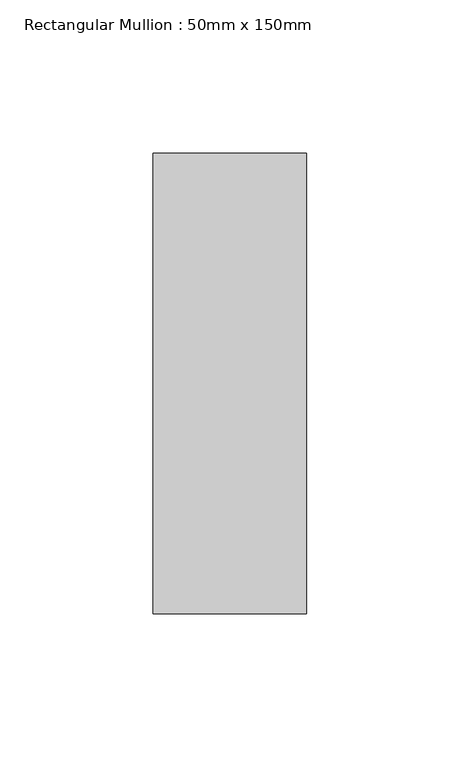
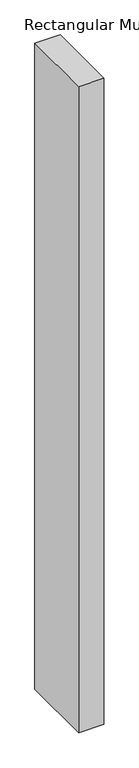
"""IFC4 building model written with IfcOpenShell, lengths in millimetres: member geometry, Rectangular Mullion : 50mm x 150mm."""

from ifc_helpers import new_model, si_unit, frame, origin, place, context, project, spatial, polyline, outline, extrude, source, transform, mapped, element, save


def rectangular_mullion_50mm_x_150mm_487a502d(model_context):
    return source(origin(), model_context, "Body", "SweptSolid", [
        extrude(outline(polyline([(25.0, 75.0), (25.0, -75.0), (-25.0, -75.0), (-25.0, 75.0), (25.0, 75.0)])), frame((0.0, 0.0, -1352.3178267), z_axis=(0.0, 0.0, 1.0), x_axis=(1.0, 0.0, 0.0)), (0.0, 0.0, 1.0), 1352.3178267),
    ])


if __name__ == "__main__":
    model = new_model("IFC4")
    model_context = context("Model", 3, world=origin())
    ifc_project = project(units=[si_unit("LENGTHUNIT", "METRE", prefix="MILLI")], contexts=[model_context])
    site = spatial("IfcSite", under=ifc_project)
    building = spatial("IfcBuilding", under=site)
    placement = place(None, origin())
    rectangular_mullion_50mm_x_150mm_shape = rectangular_mullion_50mm_x_150mm_487a502d(model_context)
    element("IfcMember", 1, ObjectType="Rectangular Mullion : 50mm x 150mm", at=placement, inside=building, context=model_context, shape_type="MappedRepresentation", body=[
        mapped(rectangular_mullion_50mm_x_150mm_shape, transform((0.0, 0.0, 0.0), x_axis=(1.0, 0.0, 0.0), y_axis=(0.0, 1.0, 0.0), z_axis=(0.0, 0.0, 1.0))),
    ])
    save(model, "model.ifc")
